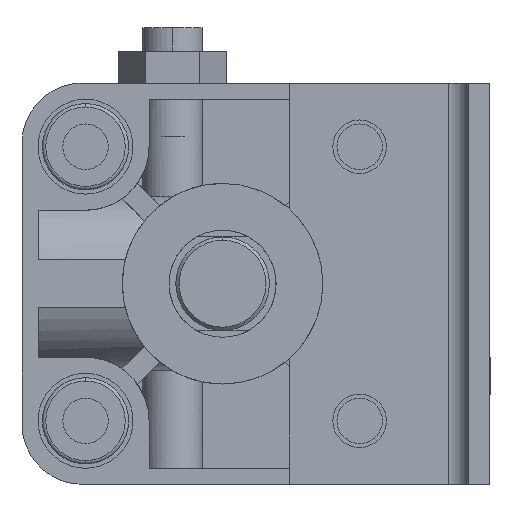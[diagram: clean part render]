
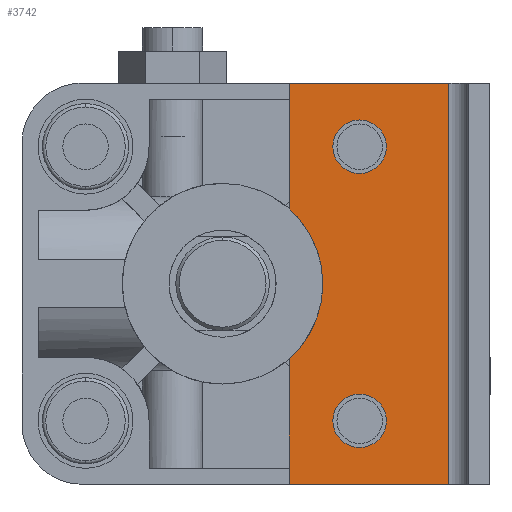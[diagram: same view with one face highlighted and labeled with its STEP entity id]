
A CAD part, left-side view. The second image highlights one B-rep face of the part: STEP entity #3742.
In plain terms, the highlighted planar face has unit normal (-1, 0, 0) as drawn and (0, 0, 1) by its records, which use the part's own axes.
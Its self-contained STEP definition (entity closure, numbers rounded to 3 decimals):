
#106 = CARTESIAN_POINT ( 'NONE',  ( -24.5, -20.5, 0. ) ) ;
#169 = CARTESIAN_POINT ( 'NONE',  ( -20.5, -20.5, 0. ) ) ;
#252 = CIRCLE ( 'NONE', #4769, 4. ) ;
#293 = VERTEX_POINT ( 'NONE', #4915 ) ;
#298 = EDGE_CURVE ( 'NONE', #6162, #4855, #8589, .T. ) ;
#319 = EDGE_LOOP ( 'NONE', ( #3312, #4141 ) ) ;
#532 = AXIS2_PLACEMENT_3D ( 'NONE', #2213, #2044, #4929 ) ;
#646 = DIRECTION ( 'NONE',  ( 0., 1., 0. ) ) ;
#804 = CARTESIAN_POINT ( 'NONE',  ( -20.5, -20.5, 0. ) ) ;
#928 = CIRCLE ( 'NONE', #4877, 4. ) ;
#976 = DIRECTION ( 'NONE',  ( -1., 0., 0. ) ) ;
#1095 = VERTEX_POINT ( 'NONE', #10243 ) ;
#1633 = EDGE_LOOP ( 'NONE', ( #4477, #10171, #8239, #5239, #9400, #2125 ) ) ;
#1979 = VERTEX_POINT ( 'NONE', #4625 ) ;
#2044 = DIRECTION ( 'NONE',  ( 0., 0., -1. ) ) ;
#2125 = ORIENTED_EDGE ( 'NONE', *, *, #2810, .T. ) ;
#2213 = CARTESIAN_POINT ( 'NONE',  ( 0., 0., 0. ) ) ;
#2239 = CARTESIAN_POINT ( 'NONE',  ( 20.5, -20.5, 0. ) ) ;
#2329 = FACE_BOUND ( 'NONE', #319, .T. ) ;
#2591 = CARTESIAN_POINT ( 'NONE',  ( -11.18, -10., 0. ) ) ;
#2683 = AXIS2_PLACEMENT_3D ( 'NONE', #3525, #9058, #9728 ) ;
#2696 = PLANE ( 'NONE',  #2683 ) ;
#2810 = EDGE_CURVE ( 'NONE', #1979, #293, #2867, .T. ) ;
#2867 = LINE ( 'NONE', #4711, #9822 ) ;
#2875 = CARTESIAN_POINT ( 'NONE',  ( 30., -33.8, 0. ) ) ;
#2902 = DIRECTION ( 'NONE',  ( 0., 0., 1. ) ) ;
#3255 = EDGE_CURVE ( 'NONE', #1095, #8510, #928, .T. ) ;
#3271 = AXIS2_PLACEMENT_3D ( 'NONE', #5569, #2902, #9060 ) ;
#3312 = ORIENTED_EDGE ( 'NONE', *, *, #9550, .F. ) ;
#3525 = CARTESIAN_POINT ( 'NONE',  ( -30., -33.8, 0. ) ) ;
#3614 = CIRCLE ( 'NONE', #532, 15. ) ;
#3685 = LINE ( 'NONE', #9378, #4520 ) ;
#3689 = FACE_OUTER_BOUND ( 'NONE', #1633, .T. ) ;
#3742 = ADVANCED_FACE ( 'NONE', ( #9721, #2329, #3689 ), #2696, .T. ) ;
#3781 = VECTOR ( 'NONE', #9080, 1000. ) ;
#4071 = CARTESIAN_POINT ( 'NONE',  ( 0., -33.8, 0. ) ) ;
#4141 = ORIENTED_EDGE ( 'NONE', *, *, #3255, .F. ) ;
#4351 = CIRCLE ( 'NONE', #5128, 4. ) ;
#4477 = ORIENTED_EDGE ( 'NONE', *, *, #6609, .T. ) ;
#4520 = VECTOR ( 'NONE', #4531, 1000. ) ;
#4531 = DIRECTION ( 'NONE',  ( -1., 0., 0. ) ) ;
#4562 = CARTESIAN_POINT ( 'NONE',  ( 30., -25., 0. ) ) ;
#4625 = CARTESIAN_POINT ( 'NONE',  ( 30., -10., 0. ) ) ;
#4711 = CARTESIAN_POINT ( 'NONE',  ( 0., -10., 0. ) ) ;
#4769 = AXIS2_PLACEMENT_3D ( 'NONE', #169, #8544, #8385 ) ;
#4852 = DIRECTION ( 'NONE',  ( 0., 0., 1. ) ) ;
#4855 = VERTEX_POINT ( 'NONE', #5777 ) ;
#4877 = AXIS2_PLACEMENT_3D ( 'NONE', #2239, #9274, #4954 ) ;
#4915 = CARTESIAN_POINT ( 'NONE',  ( 11.18, -10., 0. ) ) ;
#4929 = DIRECTION ( 'NONE',  ( 1., 0., 0. ) ) ;
#4954 = DIRECTION ( 'NONE',  ( 1., 0., 0. ) ) ;
#5123 = CIRCLE ( 'NONE', #3271, 4. ) ;
#5128 = AXIS2_PLACEMENT_3D ( 'NONE', #804, #4852, #10205 ) ;
#5239 = ORIENTED_EDGE ( 'NONE', *, *, #298, .F. ) ;
#5532 = EDGE_LOOP ( 'NONE', ( #9856, #10004 ) ) ;
#5569 = CARTESIAN_POINT ( 'NONE',  ( 20.5, -20.5, 0. ) ) ;
#5576 = LINE ( 'NONE', #4562, #7662 ) ;
#5777 = CARTESIAN_POINT ( 'NONE',  ( -30., -33.8, 0. ) ) ;
#5894 = CARTESIAN_POINT ( 'NONE',  ( -30., -25., 0. ) ) ;
#6162 = VERTEX_POINT ( 'NONE', #2875 ) ;
#6504 = VERTEX_POINT ( 'NONE', #8186 ) ;
#6609 = EDGE_CURVE ( 'NONE', #293, #10357, #3614, .T. ) ;
#6711 = LINE ( 'NONE', #5894, #9180 ) ;
#6889 = EDGE_CURVE ( 'NONE', #10182, #6504, #252, .T. ) ;
#7125 = CARTESIAN_POINT ( 'NONE',  ( 24.5, -20.5, 0. ) ) ;
#7662 = VECTOR ( 'NONE', #10250, 1000. ) ;
#7864 = EDGE_CURVE ( 'NONE', #10357, #10253, #3685, .T. ) ;
#7910 = EDGE_CURVE ( 'NONE', #1979, #6162, #5576, .T. ) ;
#8186 = CARTESIAN_POINT ( 'NONE',  ( -16.5, -20.5, 0. ) ) ;
#8200 = EDGE_CURVE ( 'NONE', #6504, #10182, #4351, .T. ) ;
#8239 = ORIENTED_EDGE ( 'NONE', *, *, #9204, .F. ) ;
#8385 = DIRECTION ( 'NONE',  ( 1., 0., 0. ) ) ;
#8510 = VERTEX_POINT ( 'NONE', #7125 ) ;
#8544 = DIRECTION ( 'NONE',  ( 0., 0., 1. ) ) ;
#8589 = LINE ( 'NONE', #4071, #3781 ) ;
#9058 = DIRECTION ( 'NONE',  ( 0., 0., 1. ) ) ;
#9060 = DIRECTION ( 'NONE',  ( 1., 0., 0. ) ) ;
#9080 = DIRECTION ( 'NONE',  ( -1., 0., 0. ) ) ;
#9180 = VECTOR ( 'NONE', #646, 1000. ) ;
#9204 = EDGE_CURVE ( 'NONE', #4855, #10253, #6711, .T. ) ;
#9274 = DIRECTION ( 'NONE',  ( 0., 0., 1. ) ) ;
#9378 = CARTESIAN_POINT ( 'NONE',  ( 0., -10., 0. ) ) ;
#9400 = ORIENTED_EDGE ( 'NONE', *, *, #7910, .F. ) ;
#9550 = EDGE_CURVE ( 'NONE', #8510, #1095, #5123, .T. ) ;
#9623 = CARTESIAN_POINT ( 'NONE',  ( -30., -10., 0. ) ) ;
#9721 = FACE_BOUND ( 'NONE', #5532, .T. ) ;
#9728 = DIRECTION ( 'NONE',  ( 1., 0., 0. ) ) ;
#9822 = VECTOR ( 'NONE', #976, 1000. ) ;
#9856 = ORIENTED_EDGE ( 'NONE', *, *, #8200, .F. ) ;
#10004 = ORIENTED_EDGE ( 'NONE', *, *, #6889, .F. ) ;
#10171 = ORIENTED_EDGE ( 'NONE', *, *, #7864, .T. ) ;
#10182 = VERTEX_POINT ( 'NONE', #106 ) ;
#10205 = DIRECTION ( 'NONE',  ( 1., 0., 0. ) ) ;
#10243 = CARTESIAN_POINT ( 'NONE',  ( 16.5, -20.5, 0. ) ) ;
#10250 = DIRECTION ( 'NONE',  ( 0., -1., 0. ) ) ;
#10253 = VERTEX_POINT ( 'NONE', #9623 ) ;
#10357 = VERTEX_POINT ( 'NONE', #2591 ) ;
